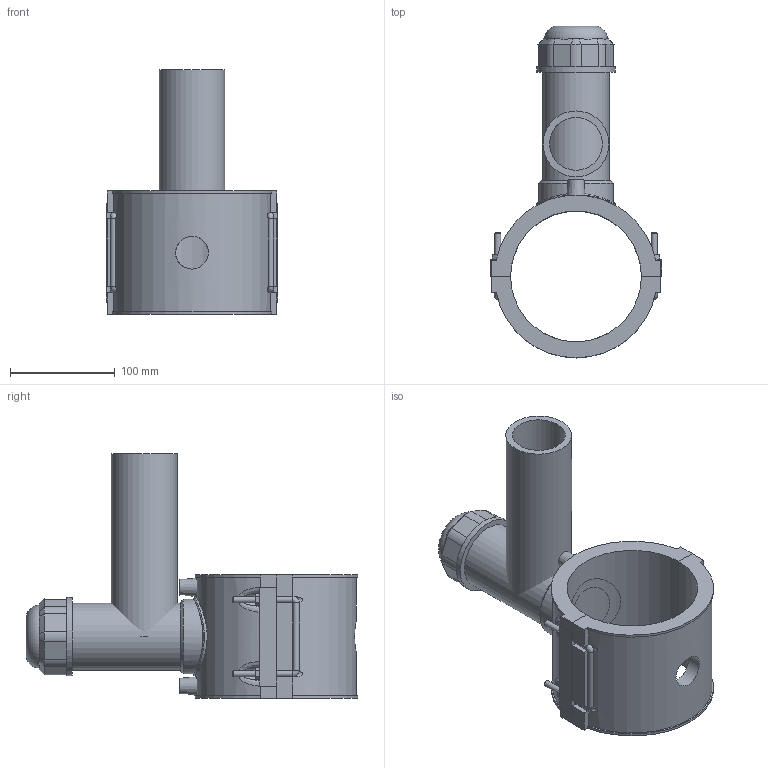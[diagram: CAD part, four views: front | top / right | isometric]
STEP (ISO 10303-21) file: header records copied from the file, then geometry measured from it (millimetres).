
FILE_DESCRIPTION(/* description */ (''),/* implementation_level */ '2;1');
FILE_NAME(/* name */ 'C:\Dropbox\KIMPROJECTS-Inventor 2019\99-16-3568-Processing\ElectroFusion Fittings\4963P4\stp\4963P4125063.stp',/* time_stamp */ '2022-03-17T11:29:03+02:00',/* author */ ('KIM'),/* organization */ (''),/* preprocessor_version */ 'ST-DEVELOPER v17.2',/* originating_system */ 'Autodesk Inventor 2019',/* authorisation */ '');
FILE_SCHEMA (('AUTOMOTIVE_DESIGN { 1 0 10303 214 3 1 1 }'));
Length unit declared in the file: millimetre
Products named in the file (1): 4963P4125063
Bounding box: 164 x 317.27 x 234 mm (x, y, z)
Volume: 1281319.3 mm3; surface area: 271028.4 mm2
Topology: 3 solids, 3 shells, 201 faces, 519 edges, 333 vertices
Faces by surface type: plane 119, cylinder 53, cone 15, bspline 13, torus 1
Full cylindrical faces by diameter (mm): 4 x2, 6 x8, 10 x2, 31.36 x1, 50.4 x1, 52.5 x1, 63 x1, 63.75 x1, 71.25 x1, 75 x2
Entity records: 7318 total; most frequent: CARTESIAN_POINT 2439, ORIENTED_EDGE 1022, DIRECTION 966, EDGE_CURVE 511, VERTEX_POINT 333, AXIS2_PLACEMENT_3D 331, LINE 304, VECTOR 304
